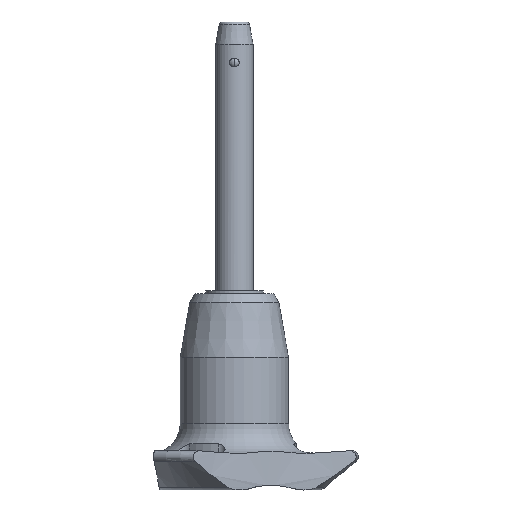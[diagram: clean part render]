
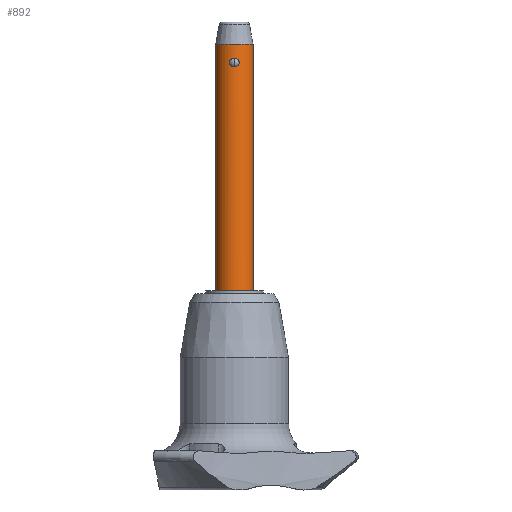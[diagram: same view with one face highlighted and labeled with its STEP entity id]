
A CAD part, front view. The second image highlights one B-rep face of the part: STEP entity #892.
In plain terms, the highlighted cylindrical face has radius 2.5 mm (diameter 5 mm), a partial arc.
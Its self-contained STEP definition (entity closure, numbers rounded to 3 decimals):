
#7 = ORIENTED_EDGE ( 'NONE', *, *, #108, .F. ) ;
#16 = CARTESIAN_POINT ( 'NONE',  ( 0., -2.5, 0. ) ) ;
#54 = DIRECTION ( 'NONE',  ( 1., 0., 0. ) ) ;
#95 = VERTEX_POINT ( 'NONE', #1346 ) ;
#97 = DIRECTION ( 'NONE',  ( 1., 0., 0. ) ) ;
#107 = CYLINDRICAL_SURFACE ( 'NONE', #1812, 2.5 ) ;
#108 = EDGE_CURVE ( 'NONE', #2426, #2023, #2370, .T. ) ;
#125 = VECTOR ( 'NONE', #713, 1000. ) ;
#135 = EDGE_CURVE ( 'NONE', #2073, #95, #1609, .T. ) ;
#177 = CARTESIAN_POINT ( 'NONE',  ( -0.51, -2.448, 0.953 ) ) ;
#214 = CARTESIAN_POINT ( 'NONE',  ( -0.511, -2.448, 0.21 ) ) ;
#234 = EDGE_CURVE ( 'NONE', #1972, #712, #1371, .T. ) ;
#252 = AXIS2_PLACEMENT_3D ( 'NONE', #1903, #417, #54 ) ;
#285 = CARTESIAN_POINT ( 'NONE',  ( 0.652, -2.413, 0.66 ) ) ;
#326 = CARTESIAN_POINT ( 'NONE',  ( 0.509, -2.448, 0.208 ) ) ;
#388 = CARTESIAN_POINT ( 'NONE',  ( -0.652, -2.413, 0.501 ) ) ;
#417 = DIRECTION ( 'NONE',  ( 0., 0., -1. ) ) ;
#498 = CARTESIAN_POINT ( 'NONE',  ( 0.326, -2.482, 0.055 ) ) ;
#525 = CARTESIAN_POINT ( 'NONE',  ( 0.511, -2.448, 0.952 ) ) ;
#582 = CARTESIAN_POINT ( 'NONE',  ( 2.5, 0., 3. ) ) ;
#611 = CARTESIAN_POINT ( 'NONE',  ( -0.652, -2.414, 0.663 ) ) ;
#712 = VERTEX_POINT ( 'NONE', #582 ) ;
#713 = DIRECTION ( 'NONE',  ( 0., 0., 1. ) ) ;
#745 = CARTESIAN_POINT ( 'NONE',  ( 0., 0., -30. ) ) ;
#753 = CARTESIAN_POINT ( 'NONE',  ( 0.162, -2.5, 0. ) ) ;
#800 = VECTOR ( 'NONE', #2227, 1000. ) ;
#892 = ADVANCED_FACE ( 'NONE', ( #1788, #1932 ), #107, .T. ) ;
#932 = CARTESIAN_POINT ( 'NONE',  ( 0., 0., -30. ) ) ;
#958 = CARTESIAN_POINT ( 'NONE',  ( 0.327, -2.482, 1.107 ) ) ;
#981 = CARTESIAN_POINT ( 'NONE',  ( -0.632, -2.419, 0.744 ) ) ;
#1020 = CARTESIAN_POINT ( 'NONE',  ( 2.5, 0., -30. ) ) ;
#1061 = DIRECTION ( 'NONE',  ( 1., 0., 0. ) ) ;
#1073 = EDGE_CURVE ( 'NONE', #712, #2023, #1407, .T. ) ;
#1079 = CARTESIAN_POINT ( 'NONE',  ( 0., -2.5, 0. ) ) ;
#1192 = CARTESIAN_POINT ( 'NONE',  ( -0.326, -2.482, 0.054 ) ) ;
#1225 = B_SPLINE_CURVE_WITH_KNOTS ( 'NONE', 3,
 ( #1644, #1615, #2276, #177, #1231, #981, #611, #388, #1818, #2046, #214, #1192, #1841, #16 ),
 .UNSPECIFIED., .F., .F.,
 ( 4, 2, 2, 2, 2, 2, 4 ),
 ( 0., 0., 0.001, 0.001, 0.001, 0.001, 0.002 ),
 .UNSPECIFIED. ) ;
#1231 = CARTESIAN_POINT ( 'NONE',  ( -0.561, -2.436, 0.889 ) ) ;
#1300 = DIRECTION ( 'NONE',  ( 0., 0., 1. ) ) ;
#1307 = ORIENTED_EDGE ( 'NONE', *, *, #1383, .F. ) ;
#1334 = CARTESIAN_POINT ( 'NONE',  ( -2.5, 0., -30. ) ) ;
#1346 = CARTESIAN_POINT ( 'NONE',  ( 0., -2.5, 1.162 ) ) ;
#1371 = LINE ( 'NONE', #1020, #800 ) ;
#1383 = EDGE_CURVE ( 'NONE', #95, #2073, #1225, .T. ) ;
#1392 = EDGE_LOOP ( 'NONE', ( #1307, #2247 ) ) ;
#1407 = CIRCLE ( 'NONE', #252, 2.5 ) ;
#1412 = AXIS2_PLACEMENT_3D ( 'NONE', #932, #2406, #1061 ) ;
#1540 = CARTESIAN_POINT ( 'NONE',  ( 0., -2.5, 0. ) ) ;
#1557 = CARTESIAN_POINT ( 'NONE',  ( 0.632, -2.419, 0.416 ) ) ;
#1562 = CARTESIAN_POINT ( 'NONE',  ( -2.5, 0., 3. ) ) ;
#1609 = B_SPLINE_CURVE_WITH_KNOTS ( 'NONE', 3,
 ( #1540, #753, #498, #326, #2177, #1557, #2386, #285, #2424, #2403, #525, #958, #1795, #2001 ),
 .UNSPECIFIED., .F., .F.,
 ( 4, 2, 2, 2, 2, 2, 4 ),
 ( 0.002, 0.002, 0.003, 0.003, 0.003, 0.003, 0.004 ),
 .UNSPECIFIED. ) ;
#1615 = CARTESIAN_POINT ( 'NONE',  ( -0.164, -2.5, 1.162 ) ) ;
#1631 = ORIENTED_EDGE ( 'NONE', *, *, #234, .T. ) ;
#1644 = CARTESIAN_POINT ( 'NONE',  ( 0., -2.5, 1.162 ) ) ;
#1654 = CARTESIAN_POINT ( 'NONE',  ( 2.5, 0., -30. ) ) ;
#1737 = ORIENTED_EDGE ( 'NONE', *, *, #1073, .T. ) ;
#1788 = FACE_OUTER_BOUND ( 'NONE', #2669, .T. ) ;
#1795 = CARTESIAN_POINT ( 'NONE',  ( 0.164, -2.5, 1.162 ) ) ;
#1812 = AXIS2_PLACEMENT_3D ( 'NONE', #745, #1300, #97 ) ;
#1818 = CARTESIAN_POINT ( 'NONE',  ( -0.633, -2.419, 0.42 ) ) ;
#1841 = CARTESIAN_POINT ( 'NONE',  ( -0.162, -2.5, 0. ) ) ;
#1903 = CARTESIAN_POINT ( 'NONE',  ( 0., 0., 3. ) ) ;
#1932 = FACE_BOUND ( 'NONE', #1392, .T. ) ;
#1972 = VERTEX_POINT ( 'NONE', #1654 ) ;
#2001 = CARTESIAN_POINT ( 'NONE',  ( 0., -2.5, 1.162 ) ) ;
#2023 = VERTEX_POINT ( 'NONE', #1562 ) ;
#2042 = EDGE_CURVE ( 'NONE', #1972, #2426, #2612, .T. ) ;
#2046 = CARTESIAN_POINT ( 'NONE',  ( -0.562, -2.436, 0.274 ) ) ;
#2073 = VERTEX_POINT ( 'NONE', #1079 ) ;
#2131 = ORIENTED_EDGE ( 'NONE', *, *, #2042, .F. ) ;
#2177 = CARTESIAN_POINT ( 'NONE',  ( 0.561, -2.437, 0.273 ) ) ;
#2227 = DIRECTION ( 'NONE',  ( 0., 0., 1. ) ) ;
#2247 = ORIENTED_EDGE ( 'NONE', *, *, #135, .F. ) ;
#2276 = CARTESIAN_POINT ( 'NONE',  ( -0.324, -2.482, 1.108 ) ) ;
#2370 = LINE ( 'NONE', #1334, #125 ) ;
#2386 = CARTESIAN_POINT ( 'NONE',  ( 0.652, -2.414, 0.497 ) ) ;
#2403 = CARTESIAN_POINT ( 'NONE',  ( 0.562, -2.436, 0.887 ) ) ;
#2406 = DIRECTION ( 'NONE',  ( 0., 0., -1. ) ) ;
#2424 = CARTESIAN_POINT ( 'NONE',  ( 0.633, -2.419, 0.742 ) ) ;
#2426 = VERTEX_POINT ( 'NONE', #2445 ) ;
#2445 = CARTESIAN_POINT ( 'NONE',  ( -2.5, 0., -30. ) ) ;
#2612 = CIRCLE ( 'NONE', #1412, 2.5 ) ;
#2669 = EDGE_LOOP ( 'NONE', ( #7, #2131, #1631, #1737 ) ) ;
